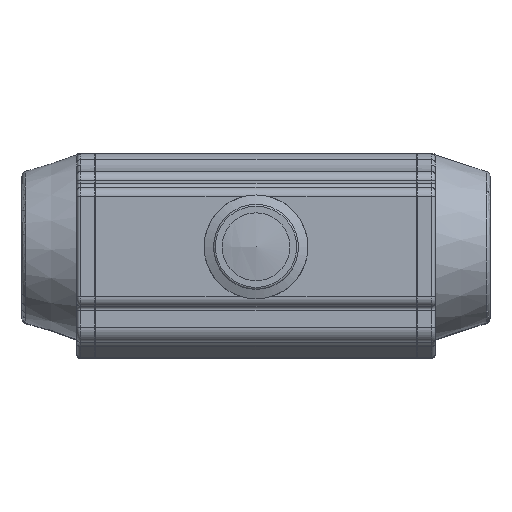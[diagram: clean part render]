
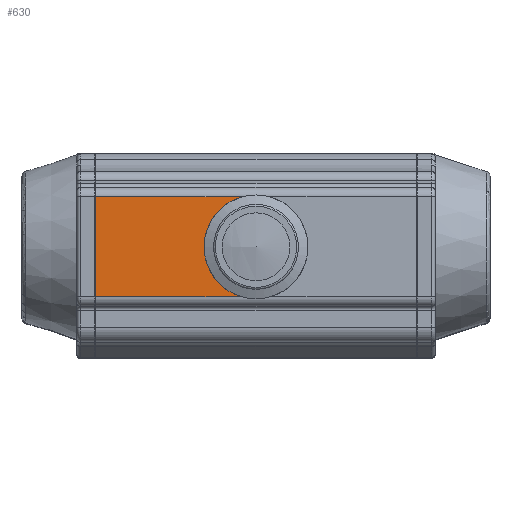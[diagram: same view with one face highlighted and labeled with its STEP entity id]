
A CAD part, top view. The second image highlights one B-rep face of the part: STEP entity #630.
In plain terms, the highlighted planar face has unit normal (0, 0, 1).
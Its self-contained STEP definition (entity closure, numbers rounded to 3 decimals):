
#630 = ADVANCED_FACE( '', ( #1721 ), #1722, .T. );
#1721 = FACE_OUTER_BOUND( '', #3417, .T. );
#1722 = PLANE( '', #3418 );
#3417 = EDGE_LOOP( '', ( #6254, #6255, #6256, #6257 ) );
#3418 = AXIS2_PLACEMENT_3D( '', #6258, #6259, #6260 );
#6254 = ORIENTED_EDGE( '', *, *, #11228, .T. );
#6255 = ORIENTED_EDGE( '', *, *, #11229, .T. );
#6256 = ORIENTED_EDGE( '', *, *, #11230, .F. );
#6257 = ORIENTED_EDGE( '', *, *, #11231, .F. );
#6258 = CARTESIAN_POINT( '', ( 85., -26.5, 58. ) );
#6259 = DIRECTION( '', ( 0., 0., 1. ) );
#6260 = DIRECTION( '', ( 1., 0., 0. ) );
#11228 = EDGE_CURVE( '', #13136, #13137, #13138, .T. );
#11229 = EDGE_CURVE( '', #13137, #13139, #13140, .T. );
#11230 = EDGE_CURVE( '', #13141, #13139, #13142, .T. );
#11231 = EDGE_CURVE( '', #13136, #13141, #13143, .T. );
#13136 = VERTEX_POINT( '', #16510 );
#13137 = VERTEX_POINT( '', #16511 );
#13138 = CIRCLE( '', #16512, 27.5 );
#13139 = VERTEX_POINT( '', #16513 );
#13140 = LINE( '', #16514, #16515 );
#13141 = VERTEX_POINT( '', #16516 );
#13142 = LINE( '', #16517, #16518 );
#13143 = LINE( '', #16519, #16520 );
#16510 = CARTESIAN_POINT( '', ( -7.348, -26.5, 58. ) );
#16511 = CARTESIAN_POINT( '', ( -7.348, 26.5, 58. ) );
#16512 = AXIS2_PLACEMENT_3D( '', #22502, #22503, #22504 );
#16513 = CARTESIAN_POINT( '', ( -85., 26.5, 58. ) );
#16514 = CARTESIAN_POINT( '', ( 85., 26.5, 58. ) );
#16515 = VECTOR( '', #22505, 1000. );
#16516 = CARTESIAN_POINT( '', ( -85., -26.5, 58. ) );
#16517 = CARTESIAN_POINT( '', ( -85., -26.5, 58. ) );
#16518 = VECTOR( '', #22506, 1000. );
#16519 = CARTESIAN_POINT( '', ( 85., -26.5, 58. ) );
#16520 = VECTOR( '', #22507, 1000. );
#22502 = CARTESIAN_POINT( '', ( 0., 0., 58. ) );
#22503 = DIRECTION( '', ( 0., 0., -1. ) );
#22504 = DIRECTION( '', ( -1., 0., 0. ) );
#22505 = DIRECTION( '', ( -1., 0., 0. ) );
#22506 = DIRECTION( '', ( 0., 1., 0. ) );
#22507 = DIRECTION( '', ( -1., 0., 0. ) );
